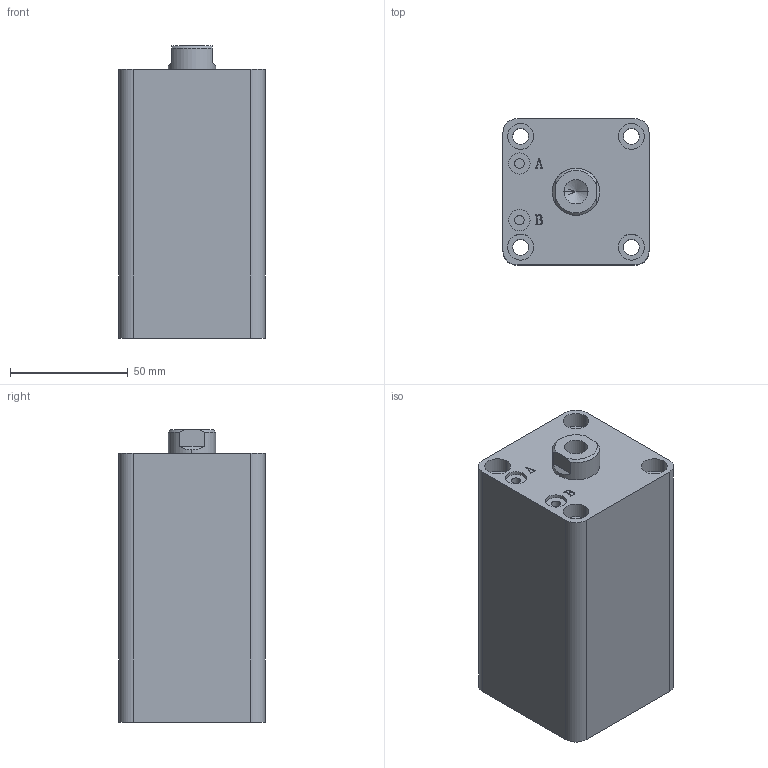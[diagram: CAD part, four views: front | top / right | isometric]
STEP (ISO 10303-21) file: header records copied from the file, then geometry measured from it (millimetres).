
FILE_DESCRIPTION (( 'STEP AP203' ), '1' );
FILE_NAME ('HTB-SDMA32-60N.STEP', '2019-10-07T11:42:23', ( '微软用户' ), ( '微软中国' ), 'SwSTEP 2.0', 'SolidWorks 2012', '' );
FILE_SCHEMA (( 'CONFIG_CONTROL_DESIGN' ));
Length unit declared in the file: millimetre
Products named in the file (3): HTB-SDMA32-60N; HTB-SDMA32-60N活塞杆; HTB-SDMA32-60掛极
Assembly tree (2 placements, depth 2):
  HTB-SDMA32-60N
    HTB-SDMA32-60掛极
    HTB-SDMA32-60N活塞杆
Bounding box: 62 x 62 x 124 mm (x, y, z)
Volume: 386684 mm3; surface area: 65632.3 mm2
Topology: 2 solids, 2 shells, 137 faces, 331 edges, 217 vertices
Faces by surface type: plane 65, cylinder 46, bspline 16, torus 6, cone 4
Entity records: 5070 total; most frequent: CARTESIAN_POINT 1576, ORIENTED_EDGE 658, DIRECTION 647, EDGE_CURVE 329, AXIS2_PLACEMENT_3D 232, VERTEX_POINT 217, VECTOR 183, LINE 183
